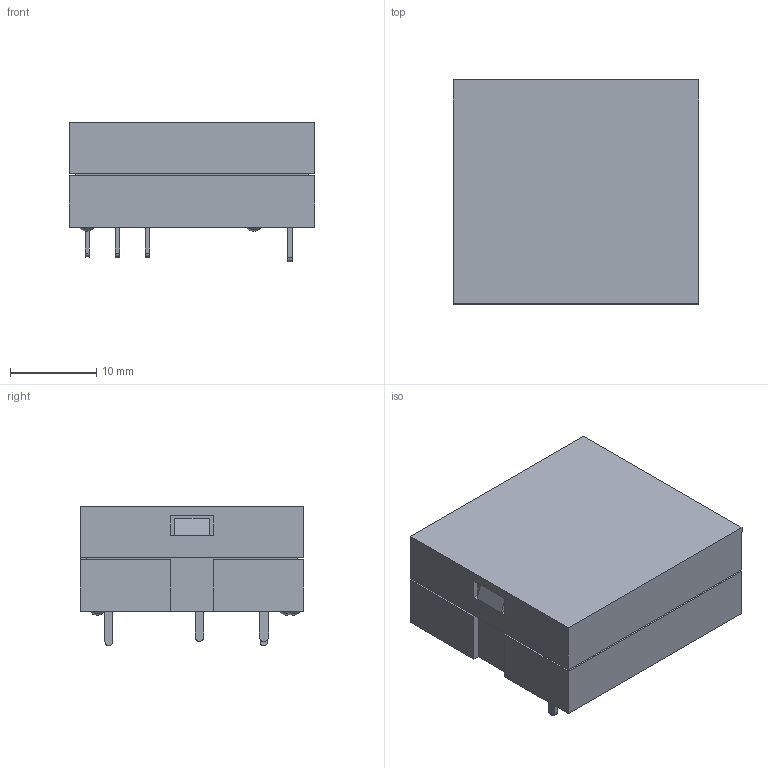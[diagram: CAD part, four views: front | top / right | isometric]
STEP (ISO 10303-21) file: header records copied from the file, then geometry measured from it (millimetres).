
FILE_DESCRIPTION(/* description */ ('Unknown'),/* implementation_level */ '2;1');
FILE_NAME(/* name */ '40_11',/* time_stamp */ '2016-07-19T08:56:55+02:00',/* author */ ('Unknown'),/* organization */ ('Unknown'),/* preprocessor_version */ 'ST-DEVELOPER v16',/* originating_system */ 'DEX',/* authorisation */ $);
FILE_SCHEMA (('AUTOMOTIVE_DESIGN {1 0 10303 214 3 1 1}'));
Length unit declared in the file: millimetre
Products named in the file (4): 40_11; Base 40_11; Coperchio 40_11; Piedineria 40_11
Assembly tree (3 placements, depth 2):
  40_11
    Base 40_11
    Coperchio 40_11
    Piedineria 40_11
Bounding box: 28.5 x 26 x 16.2 mm (x, y, z)
Volume: 3405.1 mm3; surface area: 6339.2 mm2
Topology: 7 solids, 7 shells, 117 faces, 301 edges, 201 vertices
Faces by surface type: plane 106, cylinder 7, sphere 4
Entity records: 3589 total; most frequent: CARTESIAN_POINT 609, ORIENTED_EDGE 584, DIRECTION 552, EDGE_CURVE 292, LINE 274, VECTOR 274, VERTEX_POINT 196, AXIS2_PLACEMENT_3D 139
